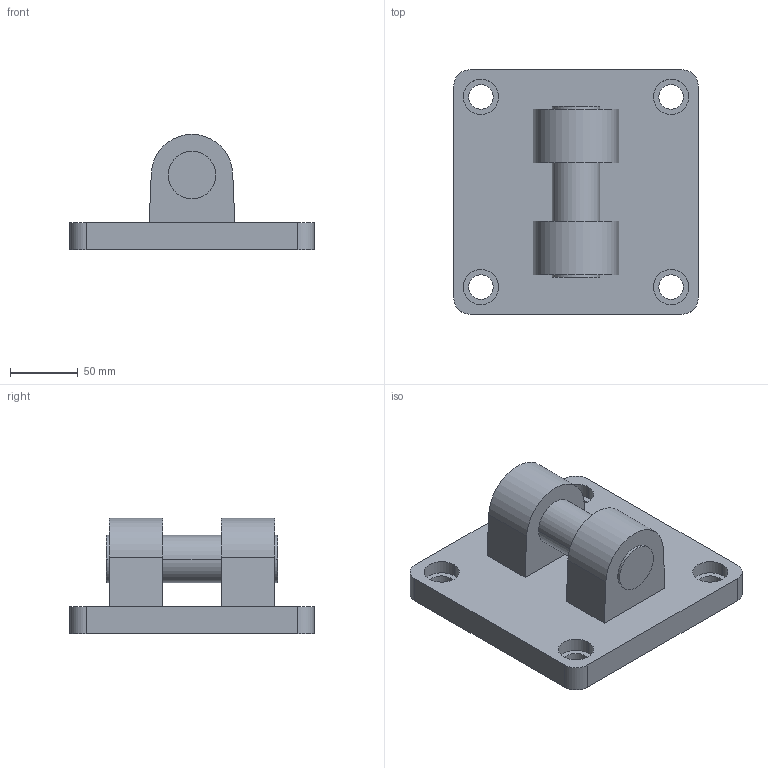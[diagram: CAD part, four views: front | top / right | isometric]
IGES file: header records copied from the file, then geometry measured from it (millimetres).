
Global section: file name: No Iges File Name specified; native system: AutoDesk Inventor R11.0; preprocessor: AutoDesk Inventor Iges Exporter R11.0; author: No Author specified; organization: No Organization specified; date: 20060711.173753; units: millimetre
Bounding box: 180 x 180 x 85 mm (x, y, z)
Volume: 924713.3 mm3; surface area: 108569.9 mm2
Topology: 1 solids, 1 shells, 51 faces, 120 edges, 80 vertices
Faces by surface type: bspline 23, plane 16, cylinder 12
